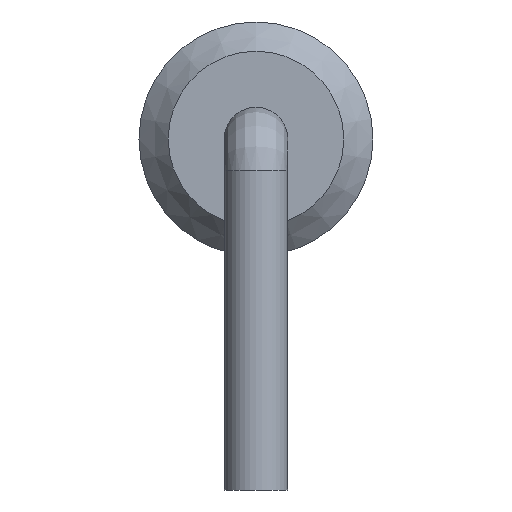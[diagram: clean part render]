
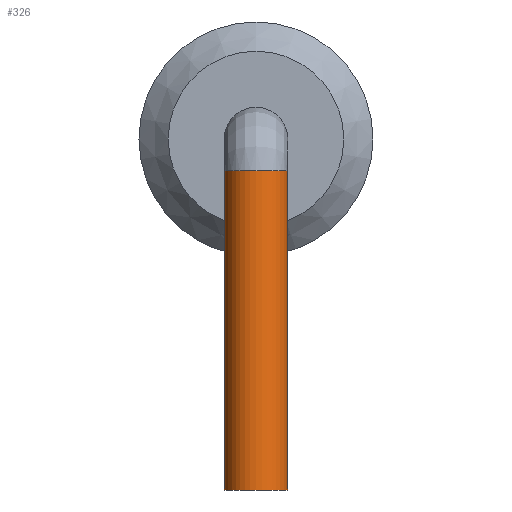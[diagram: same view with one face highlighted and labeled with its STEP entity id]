
A CAD part, left-side view. The second image highlights one B-rep face of the part: STEP entity #326.
In plain terms, the highlighted cylindrical face has radius 0.625 mm (diameter 1.25 mm), a full revolution.
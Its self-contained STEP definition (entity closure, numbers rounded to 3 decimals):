
#213 = VERTEX_POINT('',#214);
#214 = CARTESIAN_POINT('',(0.625,0.,1.675));
#254 = SURFACE_OF_REVOLUTION('',#255,#260);
#255 = CIRCLE('',#256,0.625);
#256 = AXIS2_PLACEMENT_3D('',#257,#258,#259);
#257 = CARTESIAN_POINT('',(1.25,0.,1.675));
#258 = DIRECTION('',(0.,0.,-1.));
#259 = DIRECTION('',(1.,0.,0.));
#260 = AXIS1_PLACEMENT('',#261,#262);
#261 = CARTESIAN_POINT('',(0.625,0.,1.675));
#262 = DIRECTION('',(0.,-1.,0.));
#301 = EDGE_CURVE('',#213,#213,#302,.T.);
#302 = SURFACE_CURVE('',#303,(#308,#315),.PCURVE_S1.);
#303 = CIRCLE('',#304,0.625);
#304 = AXIS2_PLACEMENT_3D('',#305,#306,#307);
#305 = CARTESIAN_POINT('',(0.,0.,1.675));
#306 = DIRECTION('',(0.,0.,1.));
#307 = DIRECTION('',(-1.,0.,0.));
#308 = PCURVE('',#254,#309);
#309 = DEFINITIONAL_REPRESENTATION('',(#310),#314);
#310 = LINE('',#311,#312);
#311 = CARTESIAN_POINT('',(3.142,0.));
#312 = VECTOR('',#313,1.);
#313 = DIRECTION('',(0.,1.));
#314 = ( GEOMETRIC_REPRESENTATION_CONTEXT(2) 
PARAMETRIC_REPRESENTATION_CONTEXT() REPRESENTATION_CONTEXT('2D SPACE',''
  ) );
#315 = PCURVE('',#316,#321);
#316 = CYLINDRICAL_SURFACE('',#317,0.625);
#317 = AXIS2_PLACEMENT_3D('',#318,#319,#320);
#318 = CARTESIAN_POINT('',(0.,0.,1.675));
#319 = DIRECTION('',(0.,0.,-1.));
#320 = DIRECTION('',(1.,0.,0.));
#321 = DEFINITIONAL_REPRESENTATION('',(#322),#325);
#322 = B_SPLINE_CURVE_WITH_KNOTS('',1,(#323,#324),.UNSPECIFIED.,.F.,.F.,
  (2,2),(3.142,9.425),.PIECEWISE_BEZIER_KNOTS.);
#323 = CARTESIAN_POINT('',(6.283,0.));
#324 = CARTESIAN_POINT('',(0.,0.));
#325 = ( GEOMETRIC_REPRESENTATION_CONTEXT(2) 
PARAMETRIC_REPRESENTATION_CONTEXT() REPRESENTATION_CONTEXT('2D SPACE',''
  ) );
#326 = ADVANCED_FACE('',(#327),#316,.T.);
#327 = FACE_BOUND('',#328,.T.);
#328 = EDGE_LOOP('',(#329,#351,#378,#379));
#329 = ORIENTED_EDGE('',*,*,#330,.T.);
#330 = EDGE_CURVE('',#213,#331,#333,.T.);
#331 = VERTEX_POINT('',#332);
#332 = CARTESIAN_POINT('',(0.625,0.,-4.6));
#333 = SEAM_CURVE('',#334,(#338,#344),.PCURVE_S1.);
#334 = LINE('',#335,#336);
#335 = CARTESIAN_POINT('',(0.625,0.,1.675));
#336 = VECTOR('',#337,1.);
#337 = DIRECTION('',(0.,0.,-1.));
#338 = PCURVE('',#316,#339);
#339 = DEFINITIONAL_REPRESENTATION('',(#340),#343);
#340 = B_SPLINE_CURVE_WITH_KNOTS('',1,(#341,#342),.UNSPECIFIED.,.F.,.F.,
  (2,2),(0.,6.275),.PIECEWISE_BEZIER_KNOTS.);
#341 = CARTESIAN_POINT('',(6.283,0.));
#342 = CARTESIAN_POINT('',(6.283,6.275));
#343 = ( GEOMETRIC_REPRESENTATION_CONTEXT(2) 
PARAMETRIC_REPRESENTATION_CONTEXT() REPRESENTATION_CONTEXT('2D SPACE',''
  ) );
#344 = PCURVE('',#316,#345);
#345 = DEFINITIONAL_REPRESENTATION('',(#346),#350);
#346 = LINE('',#347,#348);
#347 = CARTESIAN_POINT('',(0.,0.));
#348 = VECTOR('',#349,1.);
#349 = DIRECTION('',(0.,1.));
#350 = ( GEOMETRIC_REPRESENTATION_CONTEXT(2) 
PARAMETRIC_REPRESENTATION_CONTEXT() REPRESENTATION_CONTEXT('2D SPACE',''
  ) );
#351 = ORIENTED_EDGE('',*,*,#352,.F.);
#352 = EDGE_CURVE('',#331,#331,#353,.T.);
#353 = SURFACE_CURVE('',#354,(#359,#366),.PCURVE_S1.);
#354 = CIRCLE('',#355,0.625);
#355 = AXIS2_PLACEMENT_3D('',#356,#357,#358);
#356 = CARTESIAN_POINT('',(0.,0.,-4.6));
#357 = DIRECTION('',(0.,0.,-1.));
#358 = DIRECTION('',(1.,0.,0.));
#359 = PCURVE('',#316,#360);
#360 = DEFINITIONAL_REPRESENTATION('',(#361),#365);
#361 = LINE('',#362,#363);
#362 = CARTESIAN_POINT('',(0.,6.275));
#363 = VECTOR('',#364,1.);
#364 = DIRECTION('',(1.,0.));
#365 = ( GEOMETRIC_REPRESENTATION_CONTEXT(2) 
PARAMETRIC_REPRESENTATION_CONTEXT() REPRESENTATION_CONTEXT('2D SPACE',''
  ) );
#366 = PCURVE('',#367,#372);
#367 = PLANE('',#368);
#368 = AXIS2_PLACEMENT_3D('',#369,#370,#371);
#369 = CARTESIAN_POINT('',(0.,0.,-4.6)
  );
#370 = DIRECTION('',(-0.,-0.,-1.));
#371 = DIRECTION('',(-1.,0.,0.));
#372 = DEFINITIONAL_REPRESENTATION('',(#373),#377);
#373 = CIRCLE('',#374,0.625);
#374 = AXIS2_PLACEMENT_2D('',#375,#376);
#375 = CARTESIAN_POINT('',(0.,0.));
#376 = DIRECTION('',(-1.,0.));
#377 = ( GEOMETRIC_REPRESENTATION_CONTEXT(2) 
PARAMETRIC_REPRESENTATION_CONTEXT() REPRESENTATION_CONTEXT('2D SPACE',''
  ) );
#378 = ORIENTED_EDGE('',*,*,#330,.F.);
#379 = ORIENTED_EDGE('',*,*,#301,.F.);
